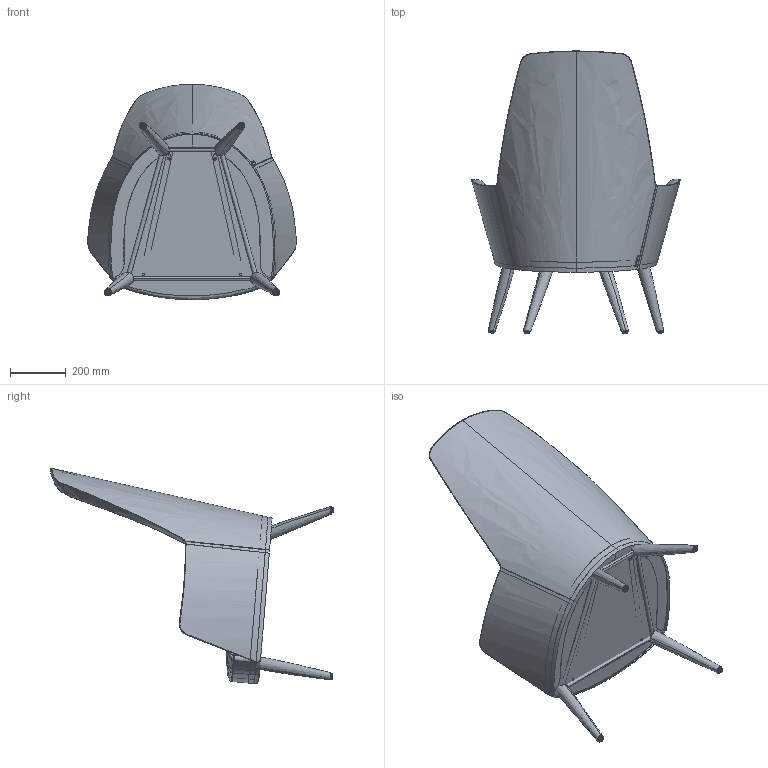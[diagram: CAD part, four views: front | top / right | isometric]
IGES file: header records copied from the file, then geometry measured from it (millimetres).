
Start section: SolidWorks IGES file using analytic representation for surfaces
Global section: file name: C:\Users\Design\Desktop\GL 029 Lounge High Back - Wood Series.IGS; native system: SolidWorks 2016; preprocessor: SolidWorks 2016; author: Design; date: 160314.102401; units: millimetre
Bounding box: 745.57 x 1009.7 x 770.95 mm (x, y, z)
Surface area: 4874545.5 mm2 (no closed solid volume)
Topology: 0 solids, 0 shells, 5748 faces, 31299 edges, 28272 vertices
Faces by surface type: revolution 5250, bspline 498
